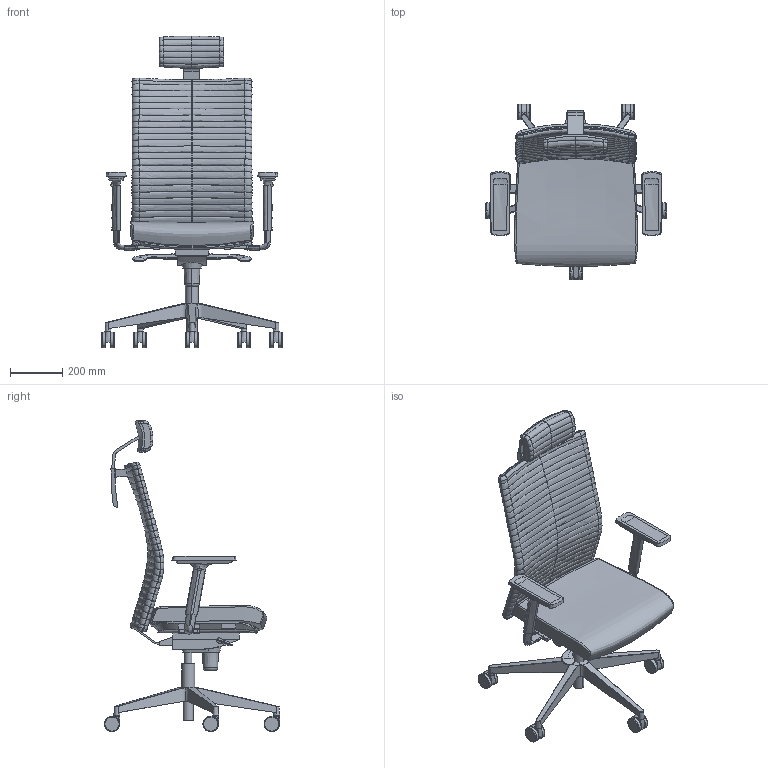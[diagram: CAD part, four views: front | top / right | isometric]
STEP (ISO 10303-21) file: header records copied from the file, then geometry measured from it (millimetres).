
FILE_DESCRIPTION(/* description */ (''),/* implementation_level */ '2;1');
FILE_NAME(/* name */ 'ELEMEN~1',/* time_stamp */ '2017-07-24T16:51:43+02:00',/* author */ (''),/* organization */ (''),/* preprocessor_version */ 'ST-DEVELOPER v15',/* originating_system */ '',/* authorisation */ '');
FILE_SCHEMA (('CONFIG_CONTROL_DESIGN'));
Length unit declared in the file: millimetre
Products named in the file (1): Document
Bounding box: 694.82 x 673.73 x 1196.08 mm (x, y, z)
Volume: 4117531 mm3; surface area: 2391930.4 mm2
Topology: 18 solids, 49 shells, 792 faces, 1864 edges, 1107 vertices
Faces by surface type: bspline 636, plane 156
Entity records: 62514 total; most frequent: CARTESIAN_POINT 51331, ORIENTED_EDGE 3387, EDGE_CURVE 1840, B_SPLINE_CURVE_WITH_KNOTS 1354, VERTEX_POINT 1101, EDGE_LOOP 796, ADVANCED_FACE 792, FACE_OUTER_BOUND 792
